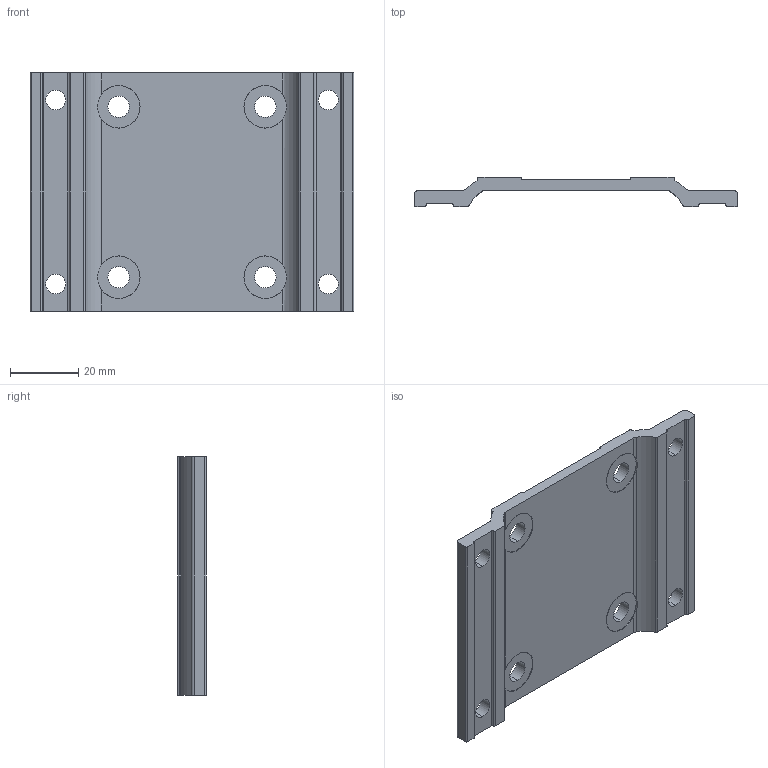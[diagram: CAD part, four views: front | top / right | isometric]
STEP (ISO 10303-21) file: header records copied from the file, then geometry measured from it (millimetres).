
FILE_DESCRIPTION (( 'STEP AP214' ), '1' );
FILE_NAME ('Fuß IG65 2281430.STEP', '2017-08-18T05:27:54', ( 'gfeller' ), ( '' ), 'SwSTEP 2.0', 'SolidWorks 2017', '' );
FILE_SCHEMA (( 'AUTOMOTIVE_DESIGN' ));
Length unit declared in the file: millimetre
Products named in the file (1): Fuß IG65 2281430
Bounding box: 95 x 8.5 x 70 mm (x, y, z)
Volume: 24489.2 mm3; surface area: 15403.2 mm2
Topology: 1 solids, 1 shells, 74 faces, 216 edges, 144 vertices
Faces by surface type: cylinder 52, plane 22
Entity records: 2630 total; most frequent: CARTESIAN_POINT 535, DIRECTION 446, ORIENTED_EDGE 432, EDGE_CURVE 216, AXIS2_PLACEMENT_3D 171, VERTEX_POINT 144, VECTOR 104, LINE 104
